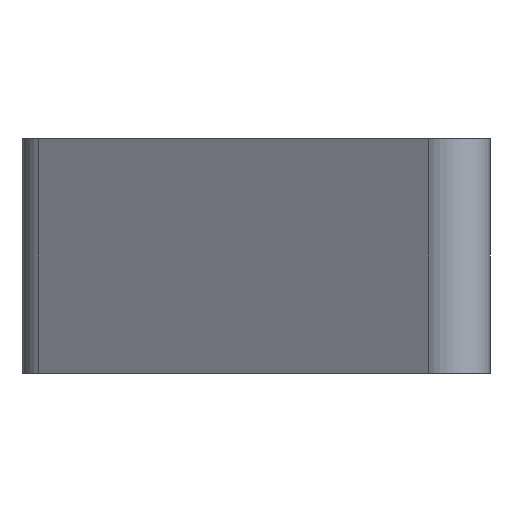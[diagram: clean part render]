
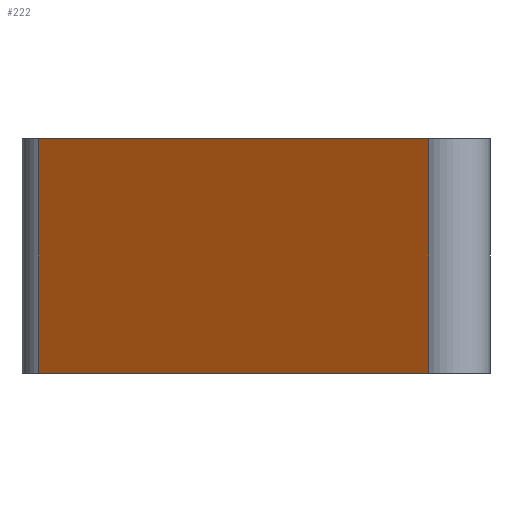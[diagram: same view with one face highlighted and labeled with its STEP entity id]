
A CAD part, left-side view. The second image highlights one B-rep face of the part: STEP entity #222.
In plain terms, the highlighted planar face has unit normal (-0.819, 0.574, 0).
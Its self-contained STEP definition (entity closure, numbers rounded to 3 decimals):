
#212=VERTEX_POINT('',#474);
#222=ADVANCED_FACE('',(#486),#487,.T.);
#278=VERTEX_POINT('',#550);
#320=VERTEX_POINT('',#595);
#324=VERTEX_POINT('',#599);
#344=EDGE_CURVE('',#320,#278,#619,.T.);
#346=EDGE_CURVE('',#324,#212,#621,.T.);
#358=EDGE_CURVE('',#278,#212,#633,.T.);
#374=EDGE_CURVE('',#320,#324,#649,.T.);
#474=CARTESIAN_POINT('',(0.875,1.249,-4.763));
#486=FACE_OUTER_BOUND('',#779,.T.);
#487=PLANE('',#780);
#550=CARTESIAN_POINT('',(6.432,9.186,-4.763));
#595=CARTESIAN_POINT('',(6.432,9.186,0.0));
#599=CARTESIAN_POINT('',(0.875,1.249,0.0));
#619=LINE('',#954,#955);
#621=LINE('',#958,#959);
#633=LINE('',#978,#979);
#649=LINE('',#1004,#1005);
#779=EDGE_LOOP('',(#1136,#1137,#1138,#1139));
#780=AXIS2_PLACEMENT_3D('',#1140,#1141,#1142);
#954=CARTESIAN_POINT('',(6.432,9.186,0.0));
#955=VECTOR('',#1289,1.0);
#958=CARTESIAN_POINT('',(0.875,1.249,0.0));
#959=VECTOR('',#1290,1.0);
#978=CARTESIAN_POINT('',(6.432,9.186,-4.763));
#979=VECTOR('',#1299,1.0);
#1004=CARTESIAN_POINT('',(6.432,9.186,0.0));
#1005=VECTOR('',#1309,1.0);
#1136=ORIENTED_EDGE('',*,*,#358,.T.);
#1137=ORIENTED_EDGE('',*,*,#346,.F.);
#1138=ORIENTED_EDGE('',*,*,#374,.F.);
#1139=ORIENTED_EDGE('',*,*,#344,.T.);
#1140=CARTESIAN_POINT('',(6.432,9.186,0.0));
#1141=DIRECTION('',(-0.819,0.574,0.0));
#1142=DIRECTION('',(0.574,0.819,-0.0));
#1289=DIRECTION('',(0.0,0.0,-1.0));
#1290=DIRECTION('',(0.0,0.0,-1.0));
#1299=DIRECTION('',(-0.574,-0.819,0.0));
#1309=DIRECTION('',(-0.574,-0.819,0.0));
